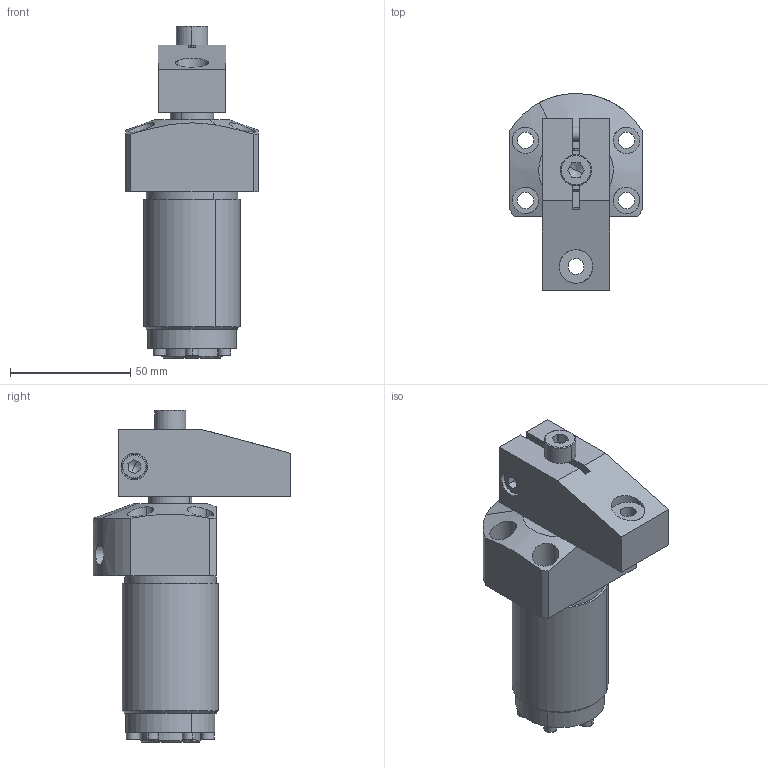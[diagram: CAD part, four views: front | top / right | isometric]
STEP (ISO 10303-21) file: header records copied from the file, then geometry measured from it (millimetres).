
FILE_DESCRIPTION(('CATIA V5 STEP Exchange'),'2;1');
FILE_NAME('\\kjf-102\KJF_TC\Hydraulic_Clamp\Standard\SWING_CLAMP\SDRL-2422\SDX-2522_A\배포도면\SDx-2522_-.stp','2026-09-07T01:56:21+00:00',('none'),('none'),'CATIA Version 5 Release 19 SP 6 (IN-10)','CATIA V5 STEP AP203','none');
FILE_SCHEMA(('CONFIG_CONTROL_DESIGN'));
Length unit declared in the file: millimetre
Products named in the file (1): SDx-2522_D_3GUIDE
Assembly tree (12 placements, depth 2):
  SDx-2522_D_3GUIDE
    #58
    #2377
    #2710
    #3318
    #4393  x6
    #5375
    #6267
Bounding box: 55 x 82 x 138 mm (x, y, z)
Volume: 164925.7 mm3; surface area: 50935.5 mm2
Topology: 12 solids, 12 shells, 399 faces, 947 edges, 595 vertices
Faces by surface type: cylinder 178, plane 123, cone 64, torus 34
Entity records: 7124 total; most frequent: CARTESIAN_POINT 1728, ORIENTED_EDGE 1138, DIRECTION 874, EDGE_CURVE 569, AXIS2_PLACEMENT_3D 451, VERTEX_POINT 365, EDGE_LOOP 298, CIRCLE 276
